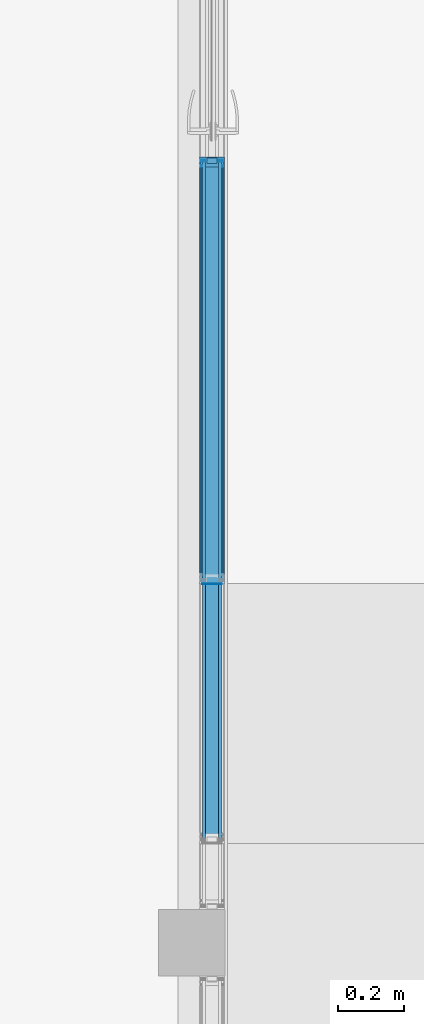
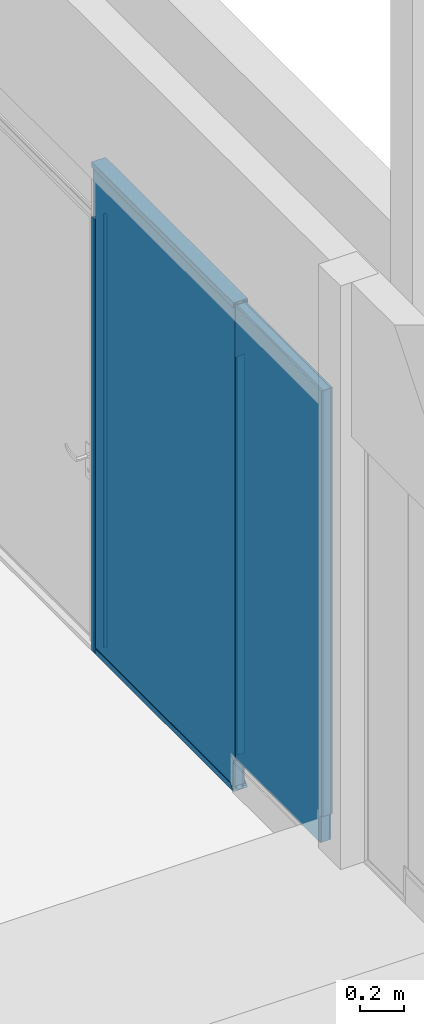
# One storey, part 31 of 65: 12 building element parts, 7 elements without a shape of their own.
"""IFC2X3 building model written with IfcOpenShell, lengths in millimetres."""

from ifc_helpers import new_model, entity, si_unit, converted_unit, derived_unit, money_unit, direction, frame, origin_with_axes, place, context, subcontext, project, spatial, faceted_brep, material, type_object, element, aggregate, save


model = new_model("IFC2X3")

# Units and contexts
model_context = context("Model", 3, precision=0.01, world=origin_with_axes(), true_north=direction((0.0, 1.0)))
body_context = subcontext(model_context, "Body", "Model", "MODEL_VIEW")
ifc_project = project(units=[si_unit("LENGTHUNIT", "METRE", prefix="MILLI"), si_unit("AREAUNIT", "SQUARE_METRE"), si_unit("VOLUMEUNIT", "CUBIC_METRE"), converted_unit("PLANEANGLEUNIT", "DEGREE", entity("IfcPlaneAngleMeasure", 0.0174532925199), si_unit("PLANEANGLEUNIT", "RADIAN"), dimensions=[0, 0, 0, 0, 0, 0, 0]), si_unit("SOLIDANGLEUNIT", "STERADIAN"), money_unit("EUR"), converted_unit("TIMEUNIT", "Year", entity("IfcTimeMeasure", 31556926.0), si_unit("TIMEUNIT", "SECOND"), dimensions=[0, 0, 1, 0, 0, 0, 0]), si_unit("MASSUNIT", "GRAM", prefix="KILO"), si_unit("THERMODYNAMICTEMPERATUREUNIT", "DEGREE_CELSIUS"), si_unit("LUMINOUSINTENSITYUNIT", "LUMEN"), si_unit("ENERGYUNIT", "JOULE", prefix="MEGA"), derived_unit("THERMALCONDUCTANCEUNIT", [(si_unit("POWERUNIT", "WATT"), 1), (si_unit("LENGTHUNIT", "METRE"), -1), (si_unit("THERMODYNAMICTEMPERATUREUNIT", "KELVIN"), -1)]), derived_unit("SPECIFICHEATCAPACITYUNIT", [(si_unit("ENERGYUNIT", "JOULE"), 1), (si_unit("MASSUNIT", "GRAM", prefix="KILO"), -1), (si_unit("THERMODYNAMICTEMPERATUREUNIT", "KELVIN"), -1)]), derived_unit("MASSDENSITYUNIT", [(si_unit("MASSUNIT", "GRAM", prefix="KILO"), 1), (si_unit("VOLUMEUNIT", "CUBIC_METRE"), -1)])], contexts=[model_context])

# Site, building, storey
site_placement = place(None, origin_with_axes())
site = spatial("IfcSite", under=ifc_project, at=site_placement, Name="Puškini 31, Narva", CompositionType="ELEMENT")
building_placement = place(site_placement, origin_with_axes())
building = spatial("IfcBuilding", under=site, at=building_placement, Name="Narva Riigigümnaasium", CompositionType="ELEMENT")
storey_placement = place(building_placement, frame((0.0, 0.0, -1320.0), z_axis=(0.0, 0.0, 1.0), x_axis=(1.0, 0.0, 0.0)))
storey = spatial("IfcBuildingStorey", under=building, at=storey_placement, Name="1.korrus -1.32", CompositionType="ELEMENT", Elevation=-1320.0)

# Curtain wall, plates, building element parts, members, proxy
curtain_wall_type = type_object("IfcCurtainWallType", Name="Curtain Wall Type", PredefinedType="NOTDEFINED")
curtain_wall_placement = place(storey_placement, frame((30362.9999988, 164066.428557, -5.96047033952e-06), z_axis=(0.0, 0.0, 1.0), x_axis=(1.0, 0.0, 0.0)))
curtain_wall = element("IfcCurtainWall", 1, at=curtain_wall_placement, inside=storey, type_object=curtain_wall_type, Name="G-SKLF-04")
plate_type_1 = type_object("IfcPlateType", Name="Siseklaasfassaad - Klaas 1285 x 285 x 10", PredefinedType="CURTAIN_PANEL")
plate_1_placement = place(curtain_wall_placement, frame((0.0, 1326.59787021, 1151.66667297), z_axis=(0.0, 0.0, 1.0), x_axis=(0.0, -1.0, 0.0)))
plate_1 = element("IfcPlate", 2, at=plate_1_placement, type_object=plate_type_1, Name="G-SKLF-04-klaas", ObjectType="CURTAIN_PANEL")
ifc_material_1 = material(Name="VKR-05_Klaas")
building_element_part_1_placement = place(plate_1_placement, origin_with_axes())
building_element_part_1 = element("IfcBuildingElementPart", 3, at=building_element_part_1_placement, material=ifc_material_1, Name="VKR-05_Klaas", context=body_context, shape_type="Brep", body=[
    faceted_brep([(-576.773582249, -29.0, 1533.33333549), (708.726414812, -29.0, 1533.33333549), (708.726414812, -20.0, 1533.33333549), (-576.773582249, -20.0, 1533.33333549), (-576.773582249, -29.0, 1248.33331976), (-561.773568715, -29.0, 1248.33331976), (-561.773568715, -29.0, -1151.66667297), (-546.773555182, -29.0, -1151.66667297), (-546.773555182, -29.0, -1136.66665944), (695.226414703, -29.0, -1136.66665944), (695.226414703, -29.0, -986.666685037), (708.726414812, -29.0, -986.666685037), (708.726414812, -20.0, -986.666685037), (695.226414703, -20.0, -986.666685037), (695.226414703, -20.0, -1136.66665944), (-546.773555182, -20.0, -1136.66665944), (-546.773555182, -20.0, -1151.66667297), (-561.773568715, -20.0, -1151.66667297), (-561.773568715, -20.0, 1248.33331976), (-576.773582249, -20.0, 1248.33331976)], [[[0, 1, 2, 3]], [[0, 4, 5, 6, 7, 8, 9, 10, 11, 1]], [[1, 11, 12, 2]], [[3, 2, 12, 13, 14, 15, 16, 17, 18, 19]], [[4, 0, 3, 19]], [[5, 4, 19, 18]], [[6, 5, 18, 17]], [[7, 6, 17, 16]], [[8, 7, 16, 15]], [[9, 8, 15, 14]], [[10, 9, 14, 13]], [[11, 10, 13, 12]]]),
    faceted_brep([(-576.773582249, 20.0, 1533.33333549), (708.726414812, 20.0, 1533.33333549), (708.726414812, 29.0, 1533.33333549), (-576.773582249, 29.0, 1533.33333549), (-576.773582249, 20.0, 1248.33331976), (-561.773568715, 20.0, 1248.33331976), (-561.773568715, 20.0, -1151.66667297), (-546.773555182, 20.0, -1151.66667297), (-546.773555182, 20.0, -1136.66665944), (695.226414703, 20.0, -1136.66665944), (695.226414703, 20.0, -986.666685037), (708.726414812, 20.0, -986.666685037), (708.726414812, 29.0, -986.666685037), (695.226414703, 29.0, -986.666685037), (695.226414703, 29.0, -1136.66665944), (-546.773555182, 29.0, -1136.66665944), (-546.773555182, 29.0, -1151.66667297), (-561.773568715, 29.0, -1151.66667297), (-561.773568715, 29.0, 1248.33331976), (-576.773582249, 29.0, 1248.33331976)], [[[0, 1, 2, 3]], [[0, 4, 5, 6, 7, 8, 9, 10, 11, 1]], [[1, 11, 12, 2]], [[3, 2, 12, 13, 14, 15, 16, 17, 18, 19]], [[4, 0, 3, 19]], [[5, 4, 19, 18]], [[6, 5, 18, 17]], [[7, 6, 17, 16]], [[8, 7, 16, 15]], [[9, 8, 15, 14]], [[10, 9, 14, 13]], [[11, 10, 13, 12]]]),
])
ifc_material_2 = material(Name="VKR-06_Õhkvahe")
building_element_part_2_placement = place(plate_1_placement, origin_with_axes())
building_element_part_2 = element("IfcBuildingElementPart", 4, at=building_element_part_2_placement, material=ifc_material_2, Name="VKR-06_Õhkvahe", context=body_context, shape_type="Brep", body=[
    faceted_brep([(-576.773582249, -20.0, 1533.33333549), (708.726414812, -20.0, 1533.33333549), (708.726414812, 20.0, 1533.33333549), (-576.773582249, 20.0, 1533.33333549), (-576.773582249, -20.0, 1248.33331976), (-561.773568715, -20.0, 1248.33331976), (-561.773568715, -20.0, -1151.66667297), (-546.773555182, -20.0, -1151.66667297), (-546.773555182, -20.0, -1136.66665944), (695.226414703, -20.0, -1136.66665944), (695.226414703, -20.0, -986.666685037), (708.726414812, -20.0, -986.666685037), (708.726414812, 20.0, -986.666685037), (695.226414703, 20.0, -986.666685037), (695.226414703, 20.0, -1136.66665944), (-546.773555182, 20.0, -1136.66665944), (-546.773555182, 20.0, -1151.66667297), (-561.773568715, 20.0, -1151.66667297), (-561.773568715, 20.0, 1248.33331976), (-576.773582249, 20.0, 1248.33331976)], [[[0, 1, 2, 3]], [[0, 4, 5, 6, 7, 8, 9, 10, 11, 1]], [[1, 11, 12, 2]], [[3, 2, 12, 13, 14, 15, 16, 17, 18, 19]], [[4, 0, 3, 19]], [[5, 4, 19, 18]], [[6, 5, 18, 17]], [[7, 6, 17, 16]], [[8, 7, 16, 15]], [[9, 8, 15, 14]], [[10, 9, 14, 13]], [[11, 10, 13, 12]]]),
])
aggregate(plate_1, [building_element_part_1, building_element_part_2])
plate_type_2 = type_object("IfcPlateType", Name="Siseklaasfassaad - Klaas 780 x 285 x 10", PredefinedType="CURTAIN_PANEL")
plate_2_placement = place(curtain_wall_placement, frame((0.0, 168.942870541, 1551.42857972), z_axis=(0.0, 0.0, 1.0), x_axis=(0.0, -1.0, 0.0)))
plate_2 = element("IfcPlate", 5, at=plate_2_placement, type_object=plate_type_2, Name="G-SKLF-04-klaas", ObjectType="CURTAIN_PANEL")
building_element_part_3_placement = place(plate_2_placement, origin_with_axes())
building_element_part_3 = element("IfcBuildingElementPart", 6, at=building_element_part_3_placement, material=ifc_material_1, Name="VKR-05_Klaas", context=body_context, shape_type="Brep", body=[
    faceted_brep([(-445.928582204, -29.0, 1133.57142293), (334.071441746, -29.0, 1133.57142293), (334.071441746, -20.0, 1133.57142293), (-445.928582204, -20.0, 1133.57142293), (-445.928582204, -29.0, -1371.42855955), (320.571409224, -29.0, -1371.42855955), (320.571409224, -29.0, -1221.42859272), (334.071441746, -29.0, -1221.42859272), (334.071441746, -20.0, -1221.42859272), (320.571409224, -20.0, -1221.42859272), (320.571409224, -20.0, -1371.42855955), (-445.928582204, -20.0, -1371.42855955)], [[[0, 1, 2, 3]], [[0, 4, 5, 6, 7, 1]], [[1, 7, 8, 2]], [[3, 2, 8, 9, 10, 11]], [[4, 0, 3, 11]], [[5, 4, 11, 10]], [[6, 5, 10, 9]], [[7, 6, 9, 8]]]),
    faceted_brep([(-445.928582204, 20.0, 1133.57142293), (334.071441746, 20.0, 1133.57142293), (334.071441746, 29.0, 1133.57142293), (-445.928582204, 29.0, 1133.57142293), (-445.928582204, 20.0, -1371.42855955), (320.571409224, 20.0, -1371.42855955), (320.571409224, 20.0, -1221.42859272), (334.071441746, 20.0, -1221.42859272), (334.071441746, 29.0, -1221.42859272), (320.571409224, 29.0, -1221.42859272), (320.571409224, 29.0, -1371.42855955), (-445.928582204, 29.0, -1371.42855955)], [[[0, 1, 2, 3]], [[0, 4, 5, 6, 7, 1]], [[1, 7, 8, 2]], [[3, 2, 8, 9, 10, 11]], [[4, 0, 3, 11]], [[5, 4, 11, 10]], [[6, 5, 10, 9]], [[7, 6, 9, 8]]]),
])
building_element_part_4_placement = place(plate_2_placement, origin_with_axes())
building_element_part_4 = element("IfcBuildingElementPart", 7, at=building_element_part_4_placement, material=ifc_material_2, Name="VKR-06_Õhkvahe", context=body_context, shape_type="Brep", body=[
    faceted_brep([(-445.928582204, -20.0, 1133.57142293), (334.071441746, -20.0, 1133.57142293), (334.071441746, 20.0, 1133.57142293), (-445.928582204, 20.0, 1133.57142293), (-445.928582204, -20.0, -1371.42855955), (320.571409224, -20.0, -1371.42855955), (320.571409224, -20.0, -1221.42859272), (334.071441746, -20.0, -1221.42859272), (334.071441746, 20.0, -1221.42859272), (320.571409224, 20.0, -1221.42859272), (320.571409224, 20.0, -1371.42855955), (-445.928582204, 20.0, -1371.42855955)], [[[0, 1, 2, 3]], [[0, 4, 5, 6, 7, 1]], [[1, 7, 8, 2]], [[3, 2, 8, 9, 10, 11]], [[4, 0, 3, 11]], [[5, 4, 11, 10]], [[6, 5, 10, 9]], [[7, 6, 9, 8]]]),
])
aggregate(plate_2, [building_element_part_3, building_element_part_4])
member_type_1 = type_object("IfcMemberType", Name="Siseklaasfassaad - Raam n2htamatu 3 x 29", PredefinedType="MULLION")
member_1_placement = place(curtain_wall_placement, frame((0.0, 616.37144197, 165.000000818), z_axis=(0.0, 0.0, 1.0), x_axis=(0.0, -1.0, 0.0)))
member_1 = element("IfcMember", 8, at=member_1_placement, type_object=member_type_1, Name="G-SKLF-04-klasidevaheline tihend", ObjectType="MULLION")
ifc_material_3 = material(Name="Klaas")
building_element_part_5_placement = place(member_1_placement, origin_with_axes())
building_element_part_5 = element("IfcBuildingElementPart", 9, at=building_element_part_5_placement, material=ifc_material_3, Name="Klaas", context=body_context, shape_type="Brep", body=[
    faceted_brep([(1.5000138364, 20.0064497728, 30.0000193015), (1.5000138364, 20.0064497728, 2235.00000514), (-1.4999861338, 20.0064497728, 2235.00000514), (-1.4999861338, 20.0064497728, 30.0000193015), (1.5000138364, 29.0064496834, 30.0000193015), (1.5000138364, 29.0064496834, 2235.00000514), (-1.4999861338, 29.0064496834, 2235.00000514), (-1.4999861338, 29.0064496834, 30.0000193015)], [[[0, 1, 2, 3]], [[4, 5, 1, 0]], [[2, 1, 5, 6]], [[3, 2, 6, 7]], [[3, 7, 4, 0]], [[7, 6, 5, 4]]]),
    faceted_brep([(-1.4999861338, -28.9935503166, 30.0000193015), (-1.4999861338, -28.9935503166, 2235.00000514), (-1.4999861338, -19.993550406, 2235.00000514), (-1.4999861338, -19.993550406, 30.0000193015), (1.5000138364, -28.9935503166, 30.0000193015), (1.5000138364, -28.9935503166, 2235.00000514), (1.5000138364, -19.993550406, 2235.00000514), (1.5000138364, -19.993550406, 30.0000193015)], [[[0, 1, 2, 3]], [[4, 5, 1, 0]], [[2, 1, 5, 6]], [[3, 2, 6, 7]], [[3, 7, 4, 0]], [[7, 6, 5, 4]]]),
])
building_element_part_6_placement = place(member_1_placement, origin_with_axes())
building_element_part_6 = element("IfcBuildingElementPart", 10, at=building_element_part_6_placement, material=ifc_material_2, Name="VKR-06_Õhkvahe", context=body_context, shape_type="Brep", body=[
    faceted_brep([(-1.4999861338, -19.9935503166, 30.0000193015), (-1.4999861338, -19.9935503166, 2235.00000514), (-1.4999861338, 20.0064496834, 2235.00000514), (-1.4999861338, 20.0064496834, 30.0000193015), (1.5000138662, -19.9935503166, 30.0000193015), (1.5000138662, -19.9935503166, 2235.00000514), (1.5000138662, 20.0064496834, 2235.00000514), (1.5000138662, 20.0064496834, 30.0000193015)], [[[0, 1, 2, 3]], [[4, 5, 1, 0]], [[2, 1, 5, 6]], [[3, 2, 6, 7]], [[3, 7, 4, 0]], [[7, 6, 5, 4]]]),
])
aggregate(member_1, [building_element_part_5, building_element_part_6])
member_type_2 = type_object("IfcMemberType", Name="Boundary Frame 30 x 37", PredefinedType="MULLION")
member_2_placement = place(curtain_wall_placement, frame((0.0, 616.37144197, 2700.000022), z_axis=(0.0, 1.0, 0.0), x_axis=(0.0, 0.0, 1.0)))
member_2 = element("IfcMember", 11, at=member_2_placement, type_object=member_type_2, Name="G-SKLF-29-raam", ObjectType="MULLION")
ifc_material_4 = material(Name="Klaasvill")
building_element_part_7_placement = place(member_2_placement, origin_with_axes())
building_element_part_7 = element("IfcBuildingElementPart", 12, at=building_element_part_7_placement, material=ifc_material_4, Name="Klaasvill", context=body_context, shape_type="Brep", body=[
    faceted_brep([(-7.49999990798, 20.000000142, 0.0), (-7.49999990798, 20.000000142, 1287.0), (-13.8499999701, 20.000000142, 1287.0), (-13.8499999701, 20.000000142, 0.0), (-7.49999990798, 34.0161444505, 0.0), (-7.49999990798, 34.0161444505, 1287.0), (-13.8499999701, 34.0161444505, 1287.0), (-13.8499999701, 34.0161444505, 0.0)], [[[0, 1, 2, 3]], [[4, 5, 1, 0]], [[1, 5, 6, 2]], [[3, 2, 6, 7]], [[0, 3, 7, 4]], [[7, 6, 5, 4]]]),
    faceted_brep([(-24.987414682, 34.0161444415, 0.0), (-24.987414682, 34.0161444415, 1287.0), (-25.004489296, 32.0307503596, 1287.0), (-25.004489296, 32.0307503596, 0.0), (-28.5126239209, 34.0161444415, 0.0), (-28.5126239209, 34.0161444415, 1287.0), (-28.7655837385, 33.0385325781, 1287.0), (-28.4955493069, 32.0307503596, 1287.0), (-27.75780152, 31.2930025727, 1287.0), (-26.7500193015, 31.0229681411, 1287.0), (-25.742237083, 31.2930025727, 1287.0), (-25.742237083, 31.2930025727, 0.0), (-26.7500193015, 31.0229681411, 0.0), (-27.75780152, 31.2930025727, 0.0), (-28.4955493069, 32.0307503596, 0.0), (-28.7655837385, 33.0385325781, 0.0)], [[[0, 1, 2, 3]], [[4, 5, 1, 0]], [[1, 5, 6, 7, 8, 9, 10, 2]], [[3, 2, 10, 11]], [[0, 3, 11, 12, 13, 14, 15, 4]], [[15, 6, 5, 4]], [[14, 7, 6, 15]], [[13, 8, 7, 14]], [[12, 9, 8, 13]], [[11, 10, 9, 12]]]),
    faceted_brep([(-7.49999990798, -19.9999997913, 0.0), (-7.49999990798, -19.9999997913, 1287.0), (-7.49999990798, -34.0161445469, 1287.0), (-7.49999990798, -34.0161445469, 0.0), (-13.8499999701, -19.9999997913, 0.0), (-13.8499999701, -19.9999997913, 1287.0), (-13.8499999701, -34.0161445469, 1287.0), (-13.8499999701, -34.0161445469, 0.0)], [[[0, 1, 2, 3]], [[4, 5, 1, 0]], [[1, 5, 6, 2]], [[3, 2, 6, 7]], [[0, 3, 7, 4]], [[7, 6, 5, 4]]]),
    faceted_brep([(-25.004489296, -32.0307503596, 0.0), (-25.004489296, -32.0307503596, 1287.0), (-24.987414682, -34.0161444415, 1287.0), (-24.987414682, -34.0161444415, 0.0), (-25.742237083, -31.2930025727, 0.0), (-25.742237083, -31.2930025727, 1287.0), (-26.7500193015, -31.0229681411, 1287.0), (-27.75780152, -31.2930025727, 1287.0), (-28.4955493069, -32.0307503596, 1287.0), (-28.7655837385, -33.0385325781, 1287.0), (-28.5126239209, -34.0161444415, 1287.0), (-28.5126239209, -34.0161444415, 0.0), (-28.7655837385, -33.0385325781, 0.0), (-28.4955493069, -32.0307503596, 0.0), (-27.75780152, -31.2930025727, 0.0), (-26.7500193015, -31.0229681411, 0.0)], [[[0, 1, 2, 3]], [[4, 5, 1, 0]], [[1, 5, 6, 7, 8, 9, 10, 2]], [[3, 2, 10, 11]], [[0, 3, 11, 12, 13, 14, 15, 4]], [[15, 6, 5, 4]], [[14, 7, 6, 15]], [[13, 8, 7, 14]], [[12, 9, 8, 13]], [[11, 10, 9, 12]]]),
])
ifc_material_5 = material(Name="Teras RAL7012")
building_element_part_8_placement = place(member_2_placement, origin_with_axes())
building_element_part_8 = element("IfcBuildingElementPart", 13, at=building_element_part_8_placement, material=ifc_material_5, Name="Teras RAL7012", context=body_context, shape_type="Brep", body=[
    faceted_brep([(0.0, -17.0000000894, 0.0), (0.0, -17.0000000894, 1287.0), (-29.5999996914, -17.0000000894, 1287.0), (-29.5999996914, -17.0000000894, 0.0), (0.0, 17.0000000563, 0.0), (0.0, 17.0000000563, 1287.0), (-29.5999996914, 17.0000000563, 1287.0), (-1.9999999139, 15.0000001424, 1287.0), (-1.9999999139, -15.0000001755, 1287.0), (-18.7999996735, -15.0000001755, 1287.0), (-18.7999996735, 15.0000001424, 1287.0), (-29.5999996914, 17.0000000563, 0.0), (-1.9999999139, 15.0000001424, 0.0), (-18.7999996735, 15.0000001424, 0.0), (-18.7999996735, -15.0000001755, 0.0), (-1.9999999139, -15.0000001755, 0.0)], [[[0, 1, 2, 3]], [[4, 5, 1, 0]], [[1, 5, 6, 2], [7, 8, 9, 10]], [[3, 2, 6, 11]], [[0, 3, 11, 4], [12, 13, 14, 15]], [[11, 6, 5, 4]], [[15, 8, 7, 12]], [[14, 9, 8, 15]], [[13, 10, 9, 14]], [[12, 7, 10, 13]]]),
    faceted_brep([(0.0, 17.0, 0.0), (0.0, 17.0, 1287.0), (-29.5999996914, 17.0000000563, 1287.0), (-29.5999996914, 17.0000000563, 0.0), (0.0, 37.0, 0.0), (0.0, 37.0, 1287.0), (-30.0000193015, 37.0, 1287.0), (-30.0000193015, 34.0161444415, 1287.0), (-28.5126239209, 34.0161444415, 1287.0), (-24.987414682, 34.0161444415, 1287.0), (-13.8499999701, 34.0161444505, 1287.0), (-7.49999999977, 34.0161444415, 1287.0), (-7.49999999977, 20.0, 1287.0), (-13.8499999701, 20.000000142, 1287.0), (-30.0000193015, 20.0, 1287.0), (-30.0000193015, 17.0, 1287.0), (-30.0000193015, 17.0, 0.0), (-30.0000193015, 20.0, 0.0), (-13.8499999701, 20.000000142, 0.0), (-7.49999999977, 20.0, 0.0), (-7.49999999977, 34.0161444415, 0.0), (-13.8499999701, 34.0161444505, 0.0), (-24.987414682, 34.0161444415, 0.0), (-28.5126239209, 34.0161444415, 0.0), (-30.0000193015, 34.0161444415, 0.0), (-30.0000193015, 37.0, 0.0)], [[[0, 1, 2, 3]], [[4, 5, 1, 0]], [[1, 5, 6, 7, 8, 9, 10, 11, 12, 13, 14, 15, 2]], [[3, 2, 15, 16]], [[0, 3, 16, 17, 18, 19, 20, 21, 22, 23, 24, 25, 4]], [[25, 6, 5, 4]], [[24, 7, 6, 25]], [[23, 8, 7, 24]], [[22, 9, 8, 23]], [[21, 10, 9, 22]], [[20, 11, 10, 21]], [[19, 12, 11, 20]], [[18, 13, 12, 19]], [[17, 14, 13, 18]], [[16, 15, 14, 17]]]),
    faceted_brep([(0.0, -17.0, 0.0), (0.0, -17.0, 1287.0), (0.0, -37.0, 1287.0), (0.0, -37.0, 0.0), (-29.5999996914, -17.0000000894, 0.0), (-29.5999996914, -17.0000000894, 1287.0), (-30.0000193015, -17.0, 1287.0), (-30.0000193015, -20.0, 1287.0), (-13.8499999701, -19.9999997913, 1287.0), (-7.49999999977, -20.0, 1287.0), (-7.49999999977, -34.0161444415, 1287.0), (-13.8499999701, -34.0161445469, 1287.0), (-24.987414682, -34.0161444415, 1287.0), (-28.5126239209, -34.0161444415, 1287.0), (-30.0000193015, -34.0161444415, 1287.0), (-30.0000193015, -37.0, 1287.0), (-30.0000193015, -37.0, 0.0), (-30.0000193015, -34.0161444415, 0.0), (-28.5126239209, -34.0161444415, 0.0), (-24.987414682, -34.0161444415, 0.0), (-13.8499999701, -34.0161445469, 0.0), (-7.49999999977, -34.0161444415, 0.0), (-7.49999999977, -20.0, 0.0), (-13.8499999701, -19.9999997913, 0.0), (-30.0000193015, -20.0, 0.0), (-30.0000193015, -17.0, 0.0)], [[[0, 1, 2, 3]], [[4, 5, 1, 0]], [[1, 5, 6, 7, 8, 9, 10, 11, 12, 13, 14, 15, 2]], [[3, 2, 15, 16]], [[0, 3, 16, 17, 18, 19, 20, 21, 22, 23, 24, 25, 4]], [[25, 6, 5, 4]], [[24, 7, 6, 25]], [[23, 8, 7, 24]], [[22, 9, 8, 23]], [[21, 10, 9, 22]], [[20, 11, 10, 21]], [[19, 12, 11, 20]], [[18, 13, 12, 19]], [[17, 14, 13, 18]], [[16, 15, 14, 17]]]),
])
aggregate(member_2, [building_element_part_7, building_element_part_8])
building_element_proxy_type = type_object("IfcBuildingElementProxyType", Name="30 x -96", PredefinedType="NOTDEFINED")
proxy_placement = place(curtain_wall_placement, frame((0.0, 1903.37144197, 0.0), z_axis=(0.0, 0.0, 1.0), x_axis=(0.0, -1.0, 0.0)))
proxy = element("IfcBuildingElementProxy", 14, at=proxy_placement, type_object=building_element_proxy_type, Name="G-SKLF-04-raam")
building_element_part_9_placement = place(proxy_placement, origin_with_axes())
building_element_part_9 = element("IfcBuildingElementPart", 15, at=building_element_part_9_placement, material=ifc_material_4, Name="Klaasvill", context=body_context, shape_type="Brep", body=[
    faceted_brep([(7.49999990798, 20.000000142, 0.0), (13.8499999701, 20.000000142, 0.0), (13.8499999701, 20.000000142, 2400.00000596), (7.49999990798, 20.000000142, 2400.00000596), (7.49999990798, 34.0161444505, 0.0), (13.8499999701, 34.0161444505, 0.0), (13.8499999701, 34.0161444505, 2400.00000596), (7.49999990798, 34.0161444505, 2400.00000596)], [[[0, 1, 2, 3]], [[0, 4, 5, 1]], [[1, 5, 6, 2]], [[3, 2, 6, 7]], [[4, 0, 3, 7]], [[5, 4, 7, 6]]]),
    faceted_brep([(24.987414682, 34.0161444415, 0.0), (25.004489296, 32.0307503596, 0.0), (25.004489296, 32.0307503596, 2400.00000596), (24.987414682, 34.0161444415, 2400.00000596), (28.5126239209, 34.0161444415, 0.0), (28.7655837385, 33.0385325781, 0.0), (28.4955493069, 32.0307503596, 0.0), (27.75780152, 31.2930025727, 0.0), (26.7500193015, 31.0229681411, 0.0), (25.742237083, 31.2930025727, 0.0), (25.742237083, 31.2930025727, 2400.00000596), (26.7500193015, 31.0229681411, 2400.00000596), (27.75780152, 31.2930025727, 2400.00000596), (28.4955493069, 32.0307503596, 2400.00000596), (28.7655837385, 33.0385325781, 2400.00000596), (28.5126239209, 34.0161444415, 2400.00000596)], [[[0, 1, 2, 3]], [[0, 4, 5, 6, 7, 8, 9, 1]], [[1, 9, 10, 2]], [[3, 2, 10, 11, 12, 13, 14, 15]], [[4, 0, 3, 15]], [[5, 4, 15, 14]], [[6, 5, 14, 13]], [[7, 6, 13, 12]], [[8, 7, 12, 11]], [[9, 8, 11, 10]]]),
    faceted_brep([(7.49999990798, -19.9999997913, 0.0), (7.49999990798, -34.0161445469, 0.0), (7.49999990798, -34.0161445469, 2400.00000596), (7.49999990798, -19.9999997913, 2400.00000596), (13.8499999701, -19.9999997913, 0.0), (13.8499999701, -34.0161445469, 0.0), (13.8499999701, -34.0161445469, 2400.00000596), (13.8499999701, -19.9999997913, 2400.00000596)], [[[0, 1, 2, 3]], [[0, 4, 5, 1]], [[1, 5, 6, 2]], [[3, 2, 6, 7]], [[4, 0, 3, 7]], [[5, 4, 7, 6]]]),
    faceted_brep([(25.004489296, -32.0307503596, 0.0), (24.987414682, -34.0161444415, 0.0), (24.987414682, -34.0161444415, 2400.00000596), (25.004489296, -32.0307503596, 2400.00000596), (25.742237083, -31.2930025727, 0.0), (26.7500193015, -31.0229681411, 0.0), (27.75780152, -31.2930025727, 0.0), (28.4955493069, -32.0307503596, 0.0), (28.7655837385, -33.0385325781, 0.0), (28.5126239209, -34.0161444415, 0.0), (28.5126239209, -34.0161444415, 2400.00000596), (28.7655837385, -33.0385325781, 2400.00000596), (28.4955493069, -32.0307503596, 2400.00000596), (27.75780152, -31.2930025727, 2400.00000596), (26.7500193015, -31.0229681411, 2400.00000596), (25.742237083, -31.2930025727, 2400.00000596)], [[[0, 1, 2, 3]], [[0, 4, 5, 6, 7, 8, 9, 1]], [[1, 9, 10, 2]], [[3, 2, 10, 11, 12, 13, 14, 15]], [[4, 0, 3, 15]], [[5, 4, 15, 14]], [[6, 5, 14, 13]], [[7, 6, 13, 12]], [[8, 7, 12, 11]], [[9, 8, 11, 10]]]),
])
building_element_part_10_placement = place(proxy_placement, origin_with_axes())
building_element_part_10 = element("IfcBuildingElementPart", 16, at=building_element_part_10_placement, material=ifc_material_5, Name="Teras RAL7012", context=body_context, shape_type="Brep", body=[
    faceted_brep([(0.0, -17.0000000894, 0.0), (29.5999996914, -17.0000000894, 0.0), (29.5999996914, -17.0000000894, 2400.00000596), (0.0, -17.0000000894, 2400.00000596), (0.0, 17.0000000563, 0.0), (29.5999996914, 17.0000000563, 0.0), (1.9999999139, 15.0000001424, 0.0), (1.9999999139, -15.0000001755, 0.0), (18.7999996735, -15.0000001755, 0.0), (18.7999996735, 15.0000001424, 0.0), (29.5999996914, 17.0000000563, 2400.00000596), (0.0, 17.0000000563, 2400.00000596), (1.9999999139, 15.0000001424, 2400.00000596), (18.7999996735, 15.0000001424, 2400.00000596), (18.7999996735, -15.0000001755, 2400.00000596), (1.9999999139, -15.0000001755, 2400.00000596)], [[[0, 1, 2, 3]], [[0, 4, 5, 1], [6, 7, 8, 9]], [[1, 5, 10, 2]], [[3, 2, 10, 11], [12, 13, 14, 15]], [[4, 0, 3, 11]], [[5, 4, 11, 10]], [[7, 6, 12, 15]], [[8, 7, 15, 14]], [[9, 8, 14, 13]], [[6, 9, 13, 12]]]),
    faceted_brep([(0.0, 17.0, 0.0), (29.5999996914, 17.0000000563, 0.0), (29.5999996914, 17.0000000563, 2400.00000596), (0.0, 17.0, 2400.00000596), (0.0, 37.0, 0.0), (30.0000193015, 37.0, 0.0), (30.0000193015, 34.0161444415, 0.0), (28.5126239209, 34.0161444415, 0.0), (24.987414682, 34.0161444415, 0.0), (13.8499999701, 34.0161444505, 0.0), (7.49999999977, 34.0161444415, 0.0), (7.49999999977, 20.0, 0.0), (13.8499999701, 20.000000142, 0.0), (30.0000193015, 20.0, 0.0), (30.0000193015, 17.0, 0.0), (30.0000193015, 17.0, 2400.00000596), (30.0000193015, 20.0, 2400.00000596), (13.8499999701, 20.000000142, 2400.00000596), (7.49999999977, 20.0, 2400.00000596), (7.49999999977, 34.0161444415, 2400.00000596), (13.8499999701, 34.0161444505, 2400.00000596), (24.987414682, 34.0161444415, 2400.00000596), (28.5126239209, 34.0161444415, 2400.00000596), (30.0000193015, 34.0161444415, 2400.00000596), (30.0000193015, 37.0, 2400.00000596), (0.0, 37.0, 2400.00000596)], [[[0, 1, 2, 3]], [[0, 4, 5, 6, 7, 8, 9, 10, 11, 12, 13, 14, 1]], [[1, 14, 15, 2]], [[3, 2, 15, 16, 17, 18, 19, 20, 21, 22, 23, 24, 25]], [[4, 0, 3, 25]], [[5, 4, 25, 24]], [[6, 5, 24, 23]], [[7, 6, 23, 22]], [[8, 7, 22, 21]], [[9, 8, 21, 20]], [[10, 9, 20, 19]], [[11, 10, 19, 18]], [[12, 11, 18, 17]], [[13, 12, 17, 16]], [[14, 13, 16, 15]]]),
    faceted_brep([(0.0, -17.0, 0.0), (0.0, -37.0, 0.0), (0.0, -37.0, 2400.00000596), (0.0, -17.0, 2400.00000596), (29.5999996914, -17.0000000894, 0.0), (30.0000193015, -17.0, 0.0), (30.0000193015, -20.0, 0.0), (13.8499999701, -19.9999997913, 0.0), (7.49999999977, -20.0, 0.0), (7.49999999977, -34.0161444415, 0.0), (13.8499999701, -34.0161445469, 0.0), (24.987414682, -34.0161444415, 0.0), (28.5126239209, -34.0161444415, 0.0), (30.0000193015, -34.0161444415, 0.0), (30.0000193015, -37.0, 0.0), (30.0000193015, -37.0, 2400.00000596), (30.0000193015, -34.0161444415, 2400.00000596), (28.5126239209, -34.0161444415, 2400.00000596), (24.987414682, -34.0161444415, 2400.00000596), (13.8499999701, -34.0161445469, 2400.00000596), (7.49999999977, -34.0161444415, 2400.00000596), (7.49999999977, -20.0, 2400.00000596), (13.8499999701, -19.9999997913, 2400.00000596), (30.0000193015, -20.0, 2400.00000596), (30.0000193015, -17.0, 2400.00000596), (29.5999996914, -17.0000000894, 2400.00000596)], [[[0, 1, 2, 3]], [[0, 4, 5, 6, 7, 8, 9, 10, 11, 12, 13, 14, 1]], [[1, 14, 15, 2]], [[3, 2, 15, 16, 17, 18, 19, 20, 21, 22, 23, 24, 25]], [[4, 0, 3, 25]], [[5, 4, 25, 24]], [[6, 5, 24, 23]], [[7, 6, 23, 22]], [[8, 7, 22, 21]], [[9, 8, 21, 20]], [[10, 9, 20, 19]], [[11, 10, 19, 18]], [[12, 11, 18, 17]], [[13, 12, 17, 16]], [[14, 13, 16, 15]]]),
])
aggregate(proxy, [building_element_part_9, building_element_part_10])
member_type_3 = type_object("IfcMemberType", Name="30 x 37", PredefinedType="MULLION")
member_3_placement = place(curtain_wall_placement, frame((0.0, 616.37144197, 0.0), z_axis=(0.0, 1.0, 0.0), x_axis=(0.0, 0.0, 1.0)))
member_3 = element("IfcMember", 17, at=member_3_placement, type_object=member_type_3, Name="G-SKLF-36-raam", ObjectType="MULLION")
aggregate(curtain_wall, [member_1, member_2, member_3, plate_1, plate_2, proxy])
building_element_part_11_placement = place(member_3_placement, origin_with_axes())
building_element_part_11 = element("IfcBuildingElementPart", 18, at=building_element_part_11_placement, material=ifc_material_4, Name="Klaasvill", context=body_context, shape_type="Brep", body=[
    faceted_brep([(13.8499999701, 20.000000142, 13.8499999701), (13.8499999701, 20.000000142, 1257.0), (7.49999990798, 20.000000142, 1257.0), (7.49999990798, 20.000000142, 7.49999990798), (13.8499999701, 34.0161444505, 13.8499999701), (13.8499999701, 34.0161444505, 1257.0), (7.49999990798, 34.0161444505, 1257.0), (7.49999990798, 34.0161444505, 7.49999990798)], [[[0, 1, 2, 3]], [[4, 5, 1, 0]], [[2, 1, 5, 6]], [[3, 2, 6, 7]], [[3, 7, 4, 0]], [[7, 6, 5, 4]]]),
    faceted_brep([(25.004489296, 32.0307503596, 25.004489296), (25.004489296, 32.0307503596, 1257.0), (24.987414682, 34.0161444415, 1257.0), (24.987414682, 34.0161444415, 24.987414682), (25.742237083, 31.2930025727, 25.742237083), (25.742237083, 31.2930025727, 1257.0), (26.7500193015, 31.0229681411, 1257.0), (27.75780152, 31.2930025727, 1257.0), (28.4955493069, 32.0307503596, 1257.0), (28.7655837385, 33.0385325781, 1257.0), (28.5126239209, 34.0161444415, 1257.0), (28.5126239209, 34.0161444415, 28.5126239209), (28.7655837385, 33.0385325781, 28.7655837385), (28.4955493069, 32.0307503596, 28.4955493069), (27.75780152, 31.2930025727, 27.75780152), (26.7500193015, 31.0229681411, 26.7500193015)], [[[0, 1, 2, 3]], [[4, 5, 1, 0]], [[2, 1, 5, 6, 7, 8, 9, 10]], [[3, 2, 10, 11]], [[3, 11, 12, 13, 14, 15, 4, 0]], [[15, 6, 5, 4]], [[14, 7, 6, 15]], [[13, 8, 7, 14]], [[12, 9, 8, 13]], [[11, 10, 9, 12]]]),
    faceted_brep([(7.49999990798, -34.0161445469, 7.49999990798), (7.49999990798, -34.0161445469, 1257.0), (7.49999990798, -19.9999997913, 1257.0), (7.49999990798, -19.9999997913, 7.49999990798), (13.8499999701, -34.0161445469, 13.8499999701), (13.8499999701, -34.0161445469, 1257.0), (13.8499999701, -19.9999997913, 1257.0), (13.8499999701, -19.9999997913, 13.8499999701)], [[[0, 1, 2, 3]], [[4, 5, 1, 0]], [[2, 1, 5, 6]], [[3, 2, 6, 7]], [[3, 7, 4, 0]], [[7, 6, 5, 4]]]),
    faceted_brep([(24.987414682, -34.0161444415, 24.987414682), (24.987414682, -34.0161444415, 1257.0), (25.004489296, -32.0307503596, 1257.0), (25.004489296, -32.0307503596, 25.004489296), (28.5126239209, -34.0161444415, 28.5126239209), (28.5126239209, -34.0161444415, 1257.0), (28.7655837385, -33.0385325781, 1257.0), (28.4955493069, -32.0307503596, 1257.0), (27.75780152, -31.2930025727, 1257.0), (26.7500193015, -31.0229681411, 1257.0), (25.742237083, -31.2930025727, 1257.0), (25.742237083, -31.2930025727, 25.742237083), (26.7500193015, -31.0229681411, 26.7500193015), (27.75780152, -31.2930025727, 27.75780152), (28.4955493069, -32.0307503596, 28.4955493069), (28.7655837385, -33.0385325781, 28.7655837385)], [[[0, 1, 2, 3]], [[4, 5, 1, 0]], [[2, 1, 5, 6, 7, 8, 9, 10]], [[3, 2, 10, 11]], [[3, 11, 12, 13, 14, 15, 4, 0]], [[15, 6, 5, 4]], [[14, 7, 6, 15]], [[13, 8, 7, 14]], [[12, 9, 8, 13]], [[11, 10, 9, 12]]]),
])
building_element_part_12_placement = place(member_3_placement, origin_with_axes())
building_element_part_12 = element("IfcBuildingElementPart", 19, at=building_element_part_12_placement, material=ifc_material_5, Name="Teras RAL7012", context=body_context, shape_type="Brep", body=[
    faceted_brep([(29.5999996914, -17.0000000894, 29.5999996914), (29.5999996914, -17.0000000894, 1257.0), (0.0, -17.0000000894, 1257.0), (0.0, -17.0000000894, 0.0), (29.5999996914, 17.0000000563, 29.5999996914), (29.5999996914, 17.0000000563, 1257.0), (0.0, 17.0000000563, 1257.0), (1.9999999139, 15.0000001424, 1257.0), (18.7999996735, 15.0000001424, 1257.0), (18.7999996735, -15.0000001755, 1257.0), (1.9999999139, -15.0000001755, 1257.0), (0.0, 17.0000000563, 0.0), (1.9999999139, 15.0000001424, 1.9999999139), (1.9999999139, -15.0000001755, 1.9999999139), (18.7999996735, -15.0000001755, 18.7999996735), (18.7999996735, 15.0000001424, 18.7999996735)], [[[0, 1, 2, 3]], [[4, 5, 1, 0]], [[2, 1, 5, 6], [7, 8, 9, 10]], [[3, 2, 6, 11]], [[3, 11, 4, 0], [12, 13, 14, 15]], [[11, 6, 5, 4]], [[15, 8, 7, 12]], [[14, 9, 8, 15]], [[13, 10, 9, 14]], [[12, 7, 10, 13]]]),
    faceted_brep([(29.5999996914, 17.0000000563, 29.5999996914), (29.5999996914, 17.0000000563, 1257.0), (0.0, 17.0, 1257.0), (0.0, 17.0, 0.0), (30.0000193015, 17.0, 30.0000193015), (30.0000193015, 17.0, 1257.0), (30.0000193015, 20.0, 1257.0), (13.8499999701, 20.000000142, 1257.0), (7.49999999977, 20.0, 1257.0), (7.49999999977, 34.0161444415, 1257.0), (13.8499999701, 34.0161444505, 1257.0), (24.987414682, 34.0161444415, 1257.0), (28.5126239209, 34.0161444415, 1257.0), (30.0000193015, 34.0161444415, 1257.0), (30.0000193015, 37.0, 1257.0), (0.0, 37.0, 1257.0), (0.0, 37.0, 0.0), (30.0000193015, 37.0, 30.0000193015), (30.0000193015, 34.0161444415, 30.0000193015), (28.5126239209, 34.0161444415, 28.5126239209), (24.987414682, 34.0161444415, 24.987414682), (13.8499999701, 34.0161444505, 13.8499999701), (7.49999999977, 34.0161444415, 7.49999999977), (7.49999999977, 20.0, 7.49999999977), (13.8499999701, 20.000000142, 13.8499999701), (30.0000193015, 20.0, 30.0000193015)], [[[0, 1, 2, 3]], [[4, 5, 1, 0]], [[2, 1, 5, 6, 7, 8, 9, 10, 11, 12, 13, 14, 15]], [[3, 2, 15, 16]], [[3, 16, 17, 18, 19, 20, 21, 22, 23, 24, 25, 4, 0]], [[25, 6, 5, 4]], [[24, 7, 6, 25]], [[23, 8, 7, 24]], [[22, 9, 8, 23]], [[21, 10, 9, 22]], [[20, 11, 10, 21]], [[19, 12, 11, 20]], [[18, 13, 12, 19]], [[17, 14, 13, 18]], [[16, 15, 14, 17]]]),
    faceted_brep([(0.0, -37.0, 0.0), (0.0, -37.0, 1257.0), (0.0, -17.0, 1257.0), (0.0, -17.0, 0.0), (30.0000193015, -37.0, 30.0000193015), (30.0000193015, -37.0, 1257.0), (30.0000193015, -34.0161444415, 1257.0), (28.5126239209, -34.0161444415, 1257.0), (24.987414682, -34.0161444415, 1257.0), (13.8499999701, -34.0161445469, 1257.0), (7.49999999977, -34.0161444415, 1257.0), (7.49999999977, -20.0, 1257.0), (13.8499999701, -19.9999997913, 1257.0), (30.0000193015, -20.0, 1257.0), (30.0000193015, -17.0, 1257.0), (29.5999996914, -17.0000000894, 1257.0), (29.5999996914, -17.0000000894, 29.5999996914), (30.0000193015, -17.0, 30.0000193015), (30.0000193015, -20.0, 30.0000193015), (13.8499999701, -19.9999997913, 13.8499999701), (7.49999999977, -20.0, 7.49999999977), (7.49999999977, -34.0161444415, 7.49999999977), (13.8499999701, -34.0161445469, 13.8499999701), (24.987414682, -34.0161444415, 24.987414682), (28.5126239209, -34.0161444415, 28.5126239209), (30.0000193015, -34.0161444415, 30.0000193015)], [[[0, 1, 2, 3]], [[4, 5, 1, 0]], [[2, 1, 5, 6, 7, 8, 9, 10, 11, 12, 13, 14, 15]], [[3, 2, 15, 16]], [[3, 16, 17, 18, 19, 20, 21, 22, 23, 24, 25, 4, 0]], [[25, 6, 5, 4]], [[24, 7, 6, 25]], [[23, 8, 7, 24]], [[22, 9, 8, 23]], [[21, 10, 9, 22]], [[20, 11, 10, 21]], [[19, 12, 11, 20]], [[18, 13, 12, 19]], [[17, 14, 13, 18]], [[16, 15, 14, 17]]]),
])
aggregate(member_3, [building_element_part_11, building_element_part_12])

save(model, "model.ifc")
